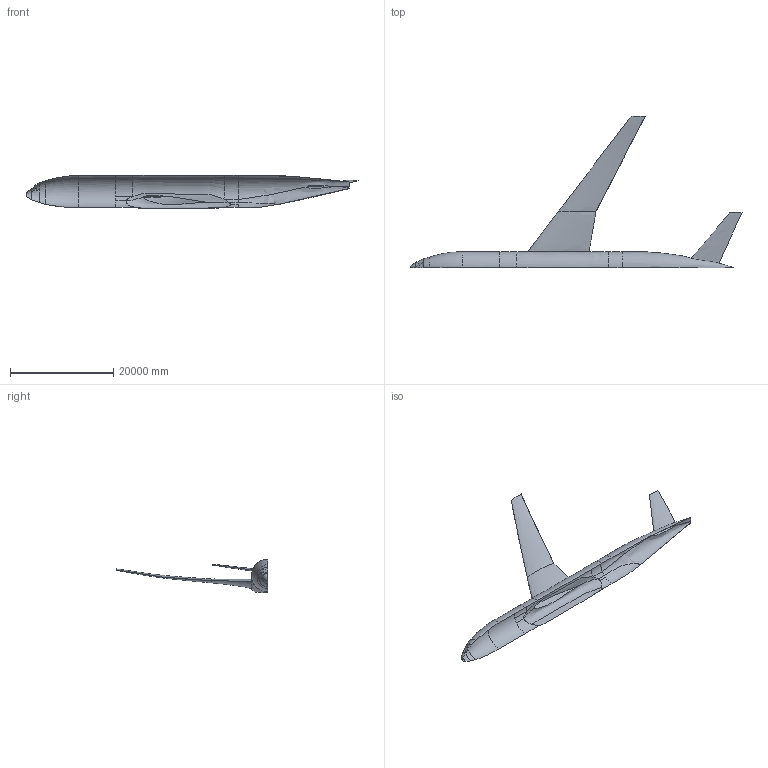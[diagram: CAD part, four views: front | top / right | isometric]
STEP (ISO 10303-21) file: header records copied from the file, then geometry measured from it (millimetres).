
FILE_DESCRIPTION(('Open CASCADE Model'),'2;1');
FILE_NAME('Open CASCADE Shape Model','2025-01-28T14:42:04',('Author'),( 'Open CASCADE'),'Open CASCADE STEP processor 7.6','Open CASCADE 7.6' ,'Unknown');
FILE_SCHEMA(('AUTOMOTIVE_DESIGN { 1 0 10303 214 1 1 1 1 }'));
Length unit declared in the file: millimetre
Products named in the file (37): Open CASCADE STEP translator 7.6 1; Open CASCADE STEP translator 7.6 1.1; Open CASCADE STEP translator 7.6 1.2; Open CASCADE STEP translator 7.6 1.3; Open CASCADE STEP translator 7.6 1.4; Open CASCADE STEP translator 7.6 1.5; Open CASCADE STEP translator 7.6 1.6; Open CASCADE STEP translator 7.6 1.7; Open CASCADE STEP translator 7.6 1.8; Open CASCADE STEP translator 7.6 1.9; Open CASCADE STEP translator 7.6 1.10; Open CASCADE STEP translator 7.6 1.11; Open CASCADE STEP translator 7.6 1.12; Open CASCADE STEP translator 7.6 1.13; Open CASCADE STEP translator 7.6 1.14; Open CASCADE STEP translator 7.6 1.15; Open CASCADE STEP translator 7.6 1.16; Open CASCADE STEP translator 7.6 1.17; Open CASCADE STEP translator 7.6 1.18; Open CASCADE STEP translator 7.6 1.19; Open CASCADE STEP translator 7.6 1.20; Open CASCADE STEP translator 7.6 1.21; Open CASCADE STEP translator 7.6 1.22; Open CASCADE STEP translator 7.6 1.23; Open CASCADE STEP translator 7.6 1.24; Open CASCADE STEP translator 7.6 1.25; Open CASCADE STEP translator 7.6 1.26; Open CASCADE STEP translator 7.6 1.27; Open CASCADE STEP translator 7.6 1.28; Open CASCADE STEP translator 7.6 1.29; Open CASCADE STEP translator 7.6 1.30; Open CASCADE STEP translator 7.6 1.31; Open CASCADE STEP translator 7.6 1.32; Open CASCADE STEP translator 7.6 1.33; Open CASCADE STEP translator 7.6 1.34; Open CASCADE STEP translator 7.6 1.35; Open CASCADE STEP translator 7.6 1.36
Assembly tree (36 placements, depth 2):
  Open CASCADE STEP translator 7.6 1
    Open CASCADE STEP translator 7.6 1.1
    Open CASCADE STEP translator 7.6 1.2
    Open CASCADE STEP translator 7.6 1.3
    Open CASCADE STEP translator 7.6 1.4
    Open CASCADE STEP translator 7.6 1.5
    Open CASCADE STEP translator 7.6 1.6
    Open CASCADE STEP translator 7.6 1.7
    Open CASCADE STEP translator 7.6 1.8
    Open CASCADE STEP translator 7.6 1.9
    Open CASCADE STEP translator 7.6 1.10
    Open CASCADE STEP translator 7.6 1.11
    Open CASCADE STEP translator 7.6 1.12
    Open CASCADE STEP translator 7.6 1.13
    Open CASCADE STEP translator 7.6 1.14
    Open CASCADE STEP translator 7.6 1.15
    Open CASCADE STEP translator 7.6 1.16
    Open CASCADE STEP translator 7.6 1.17
    Open CASCADE STEP translator 7.6 1.18
    Open CASCADE STEP translator 7.6 1.19
    Open CASCADE STEP translator 7.6 1.20
    Open CASCADE STEP translator 7.6 1.21
    Open CASCADE STEP translator 7.6 1.22
    Open CASCADE STEP translator 7.6 1.23
    Open CASCADE STEP translator 7.6 1.24
    Open CASCADE STEP translator 7.6 1.25
    Open CASCADE STEP translator 7.6 1.26
    Open CASCADE STEP translator 7.6 1.27
    Open CASCADE STEP translator 7.6 1.28
    Open CASCADE STEP translator 7.6 1.29
    Open CASCADE STEP translator 7.6 1.30
    Open CASCADE STEP translator 7.6 1.31
    Open CASCADE STEP translator 7.6 1.32
    Open CASCADE STEP translator 7.6 1.33
    Open CASCADE STEP translator 7.6 1.34
    Open CASCADE STEP translator 7.6 1.35
    Open CASCADE STEP translator 7.6 1.36
Bounding box: 64415.84 x 29381.53 x 6411.75 mm (x, y, z)
Surface area: 956401866.2 mm2 (no closed solid volume)
Topology: 0 solids, 36 shells, 36 faces, 203 edges, 203 vertices
Faces by surface type: bspline 33, plane 2, cylinder 1
Entity records: 216680 total; most frequent: CARTESIAN_POINT 214823, ORIENTED_EDGE 203, B_SPLINE_CURVE_WITH_KNOTS 203, EDGE_CURVE 113, SURFACE_CURVE 113, PCURVE 113, DEFINITIONAL_REPRESENTATION 113, DIRECTION 103
